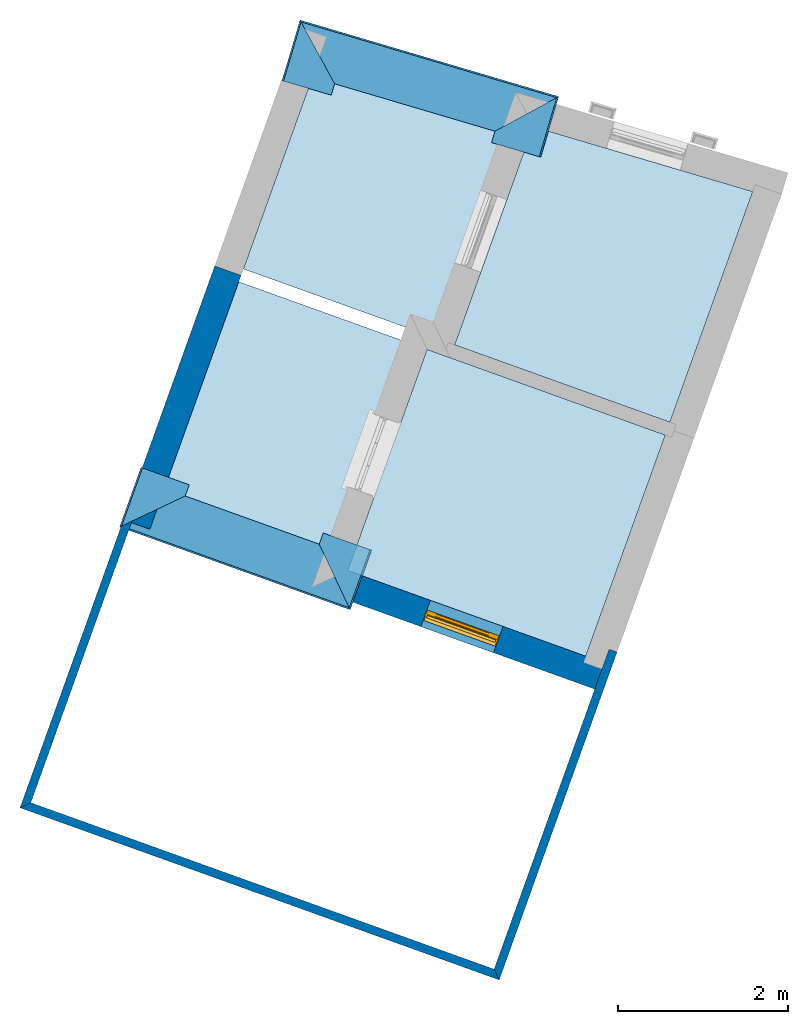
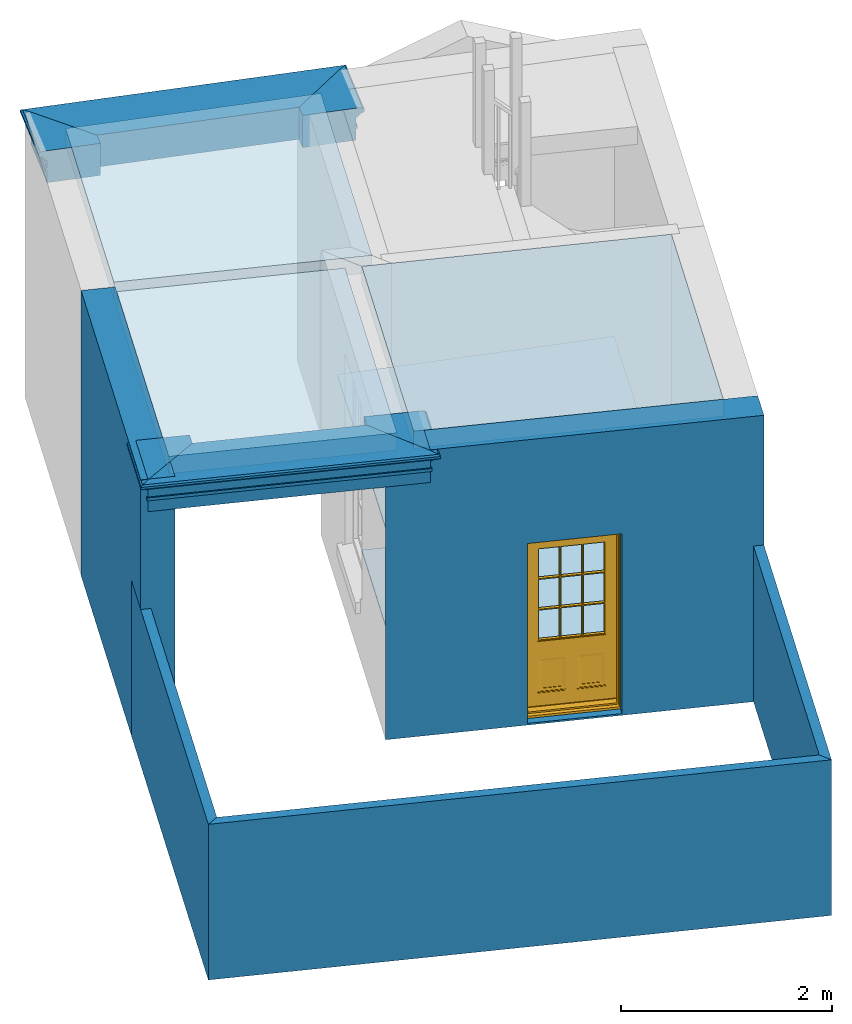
# One storey, part 1 of 4: 6 beams, 5 slabs, 5 walls, 1 door, 1 opening.
"""IFC4 building model written with IfcOpenShell, lengths in metres."""

from ifc_helpers import new_model, si_unit, frame, origin, origin_with_axes, place, context, subcontext, project, spatial, polyline, outline, extrude, clip, halfspace, faceted_brep, source, transform, mapped, material, layer, layer_set, layer_usage, material_profile, profile_set, profile_usage, type_object, type_shapes, element, fill, save


model = new_model("IFC4")

# Units and contexts
model_context = context("Model", 3, world=origin_with_axes())
body_context = subcontext(model_context, "Body", "Model", "MODEL_VIEW")
ifc_project = project(units=[si_unit("PLANEANGLEUNIT", "RADIAN"), si_unit("MASSUNIT", "GRAM", prefix="KILO"), si_unit("FORCEUNIT", "NEWTON", prefix="KILO"), si_unit("LENGTHUNIT", "METRE"), si_unit("AREAUNIT", "SQUARE_METRE"), si_unit("VOLUMEUNIT", "CUBIC_METRE")], contexts=[model_context, model_context])

# Sites, building, storey
site_1_placement = place(None, origin_with_axes())
site_1 = spatial("IfcSite", under=ifc_project, at=site_1_placement, Name="Tamar")
site_2_placement = place(site_1_placement, origin_with_axes())
site_2 = spatial("IfcSite", under=site_1, at=site_2_placement, Name="Site plot-24", CompositionType="ELEMENT")
building_placement = place(None, origin_with_axes())
building = spatial("IfcBuilding", under=site_2, at=building_placement, Name="Building plot-24", CompositionType="ELEMENT")
storey_placement = place(None, frame((0.0, 0.0, 26.0), z_axis=(0.0, 0.0, 1.0), x_axis=(1.0, 0.0, 0.0)))
storey = spatial("IfcBuildingStorey", under=building, at=storey_placement, Name="plot-24 0", CompositionType="ELEMENT", Elevation=26.0)

# Beams
ifc_material_profile_1 = material_profile(None, outline(polyline([(-0.26, 0.0), (-0.26, -0.37), (0.26, -0.37), (0.26, -0.235), (0.275, -0.235), (0.275, -0.2), (0.26, -0.2), (0.26, -0.11), (0.275, -0.11), (0.278, -0.098), (0.284, -0.089), (0.293, -0.083), (0.305, -0.08), (0.305, -0.065), (0.315, -0.065), (0.326, -0.063), (0.336, -0.056), (0.343, -0.047), (0.345, -0.035), (0.343, -0.023), (0.336, -0.014), (0.326, -0.007), (0.315, -0.005), (0.26, 0.0), (-0.26, 0.0)])))
ifc_profile_set_1 = profile_set([ifc_material_profile_1])
ifc_profile_usage_1 = profile_usage(ifc_profile_set_1)
beam_type_1 = type_object("IfcBeamType", Name="external beam_0", PredefinedType="NOTDEFINED", material=ifc_profile_set_1)
beam_1_placement = place(storey_placement, frame((268.751756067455, 274.251322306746, 3.3), z_axis=(0.338164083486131, 0.941087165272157, 0.0), x_axis=(-0.941087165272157, 0.338164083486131, 0.0)))
element("IfcBeam", 1, at=beam_1_placement, inside=storey, type_object=beam_type_1, material=ifc_profile_usage_1, Name="external beam_0", context=body_context, shape_type="Clipping", body=[
    clip(clip(extrude(outline(polyline([(-0.26, 0.0), (-0.26, -0.37), (0.26, -0.37), (0.26, -0.235), (0.275, -0.235), (0.275, -0.2), (0.26, -0.2), (0.26, -0.11), (0.275, -0.11), (0.278, -0.098), (0.284, -0.089), (0.293, -0.083), (0.305, -0.08), (0.305, -0.065), (0.315, -0.065), (0.326, -0.063), (0.336, -0.056), (0.343, -0.047), (0.345, -0.035), (0.343, -0.023), (0.336, -0.014), (0.326, -0.007), (0.315, -0.005), (0.26, 0.0), (-0.26, 0.0)])), origin_with_axes(), (0.0, 0.0, 1.0), 2.4), halfspace(frame((0.0, 0.0, 1.4), z_axis=(-2.67065849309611e-14, 0.0, -1.0), x_axis=(0.0, 1.0, 0.0)), True)), halfspace(frame((0.0, 0.0, 1.0), z_axis=(-0.707106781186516, 0.0, -0.707106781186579), x_axis=(0.0, 1.0, 0.0)), False)),
])
ifc_profile_usage_2 = profile_usage(ifc_profile_set_1)
beam_2_placement = place(storey_placement, frame((272.098928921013, 274.111172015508, 3.3), z_axis=(-0.941087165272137, 0.338164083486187, 0.0), x_axis=(-0.338164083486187, -0.941087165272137, 0.0)))
element("IfcBeam", 2, at=beam_2_placement, inside=storey, type_object=beam_type_1, material=ifc_profile_usage_2, Name="external beam_0", context=body_context, shape_type="Clipping", body=[
    clip(clip(extrude(outline(polyline([(-0.26, 0.0), (-0.26, -0.37), (0.26, -0.37), (0.26, -0.235), (0.275, -0.235), (0.275, -0.2), (0.26, -0.2), (0.26, -0.11), (0.275, -0.11), (0.278, -0.098), (0.284, -0.089), (0.293, -0.083), (0.305, -0.08), (0.305, -0.065), (0.315, -0.065), (0.326, -0.063), (0.336, -0.056), (0.343, -0.047), (0.345, -0.035), (0.343, -0.023), (0.336, -0.014), (0.326, -0.007), (0.315, -0.005), (0.26, 0.0), (-0.26, 0.0)])), origin_with_axes(), (0.0, 0.0, 1.0), 4.19737520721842), halfspace(frame((0.0, 0.0, 3.19737520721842), z_axis=(0.707106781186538, 0.0, -0.707106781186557), x_axis=(0.0, 1.0, 0.0)), True)), halfspace(frame((0.0, 0.0, 1.0), z_axis=(-0.70710678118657, 0.0, -0.707106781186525), x_axis=(0.0, 1.0, 0.0)), False)),
])
ifc_profile_usage_3 = profile_usage(ifc_profile_set_1)
beam_3_placement = place(storey_placement, frame((271.631271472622, 275.766858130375, 3.3), z_axis=(-0.338164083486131, -0.941087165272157, 0.0), x_axis=(0.941087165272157, -0.338164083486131, 0.0)))
element("IfcBeam", 3, at=beam_3_placement, inside=storey, type_object=beam_type_1, material=ifc_profile_usage_3, Name="external beam_0", context=body_context, shape_type="Clipping", body=[
    clip(clip(extrude(outline(polyline([(-0.26, 0.0), (-0.26, -0.37), (0.26, -0.37), (0.26, -0.235), (0.275, -0.235), (0.275, -0.2), (0.26, -0.2), (0.26, -0.11), (0.275, -0.11), (0.278, -0.098), (0.284, -0.089), (0.293, -0.083), (0.305, -0.08), (0.305, -0.065), (0.315, -0.065), (0.326, -0.063), (0.336, -0.056), (0.343, -0.047), (0.345, -0.035), (0.343, -0.023), (0.336, -0.014), (0.326, -0.007), (0.315, -0.005), (0.26, 0.0), (-0.26, 0.0)])), origin_with_axes(), (0.0, 0.0, 1.0), 2.4), halfspace(frame((0.0, 0.0, 1.4), z_axis=(0.707106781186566, 0.0, -0.707106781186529), x_axis=(0.0, 1.0, 0.0)), True)), halfspace(frame((0.0, 0.0, 1.0), z_axis=(-2.67065849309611e-14, 0.0, -1.0), x_axis=(0.0, 1.0, 0.0)), False)),
])
ifc_material_profile_2 = material_profile(None, outline(polyline([(-0.26, 0.0), (-0.26, -0.37), (0.26, -0.37), (0.26, -0.235), (0.275, -0.235), (0.275, -0.2), (0.26, -0.2), (0.26, -0.11), (0.275, -0.11), (0.278, -0.098), (0.284, -0.089), (0.293, -0.083), (0.305, -0.08), (0.305, -0.065), (0.315, -0.065), (0.326, -0.063), (0.336, -0.056), (0.343, -0.047), (0.345, -0.035), (0.343, -0.023), (0.336, -0.014), (0.326, -0.007), (0.315, -0.005), (0.26, 0.0), (-0.26, 0.0)])))
ifc_profile_set_2 = profile_set([ifc_material_profile_2])
ifc_profile_usage_4 = profile_usage(ifc_profile_set_2)
beam_type_2 = type_object("IfcBeamType", Name="external beam_0", PredefinedType="NOTDEFINED", material=ifc_profile_set_2)
beam_4_placement = place(storey_placement, frame((273.678064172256, 280.781707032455, 3.3), z_axis=(-0.283745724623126, -0.958899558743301, 0.0), x_axis=(0.958899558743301, -0.283745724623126, 0.0)))
element("IfcBeam", 4, at=beam_4_placement, inside=storey, type_object=beam_type_2, material=ifc_profile_usage_4, Name="external beam_0", context=body_context, shape_type="Clipping", body=[
    clip(clip(extrude(outline(polyline([(-0.26, 0.0), (-0.26, -0.37), (0.26, -0.37), (0.26, -0.235), (0.275, -0.235), (0.275, -0.2), (0.26, -0.2), (0.26, -0.11), (0.275, -0.11), (0.278, -0.098), (0.284, -0.089), (0.293, -0.083), (0.305, -0.08), (0.305, -0.065), (0.315, -0.065), (0.326, -0.063), (0.336, -0.056), (0.343, -0.047), (0.345, -0.035), (0.343, -0.023), (0.336, -0.014), (0.326, -0.007), (0.315, -0.005), (0.26, 0.0), (-0.26, 0.0)])), origin_with_axes(), (0.0, 0.0, 1.0), 2.39999999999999), halfspace(frame((0.0, 0.0, 1.39999999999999), z_axis=(1.12630425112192e-14, 0.0, -1.0), x_axis=(0.0, 1.0, 0.0)), True)), halfspace(frame((0.0, 0.0, 1.0), z_axis=(-0.707106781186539, 0.0, -0.707106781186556), x_axis=(0.0, 1.0, 0.0)), False)),
])
ifc_profile_usage_5 = profile_usage(ifc_profile_set_2)
beam_5_placement = place(storey_placement, frame((270.048534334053, 280.812850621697, 3.3), z_axis=(0.95889955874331, -0.283745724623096, 0.0), x_axis=(0.283745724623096, 0.95889955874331, 0.0)))
element("IfcBeam", 5, at=beam_5_placement, inside=storey, type_object=beam_type_2, material=ifc_profile_usage_5, Name="external beam_0", context=body_context, shape_type="Clipping", body=[
    clip(clip(extrude(outline(polyline([(-0.26, 0.0), (-0.26, -0.37), (0.26, -0.37), (0.26, -0.235), (0.275, -0.235), (0.275, -0.2), (0.26, -0.2), (0.26, -0.11), (0.275, -0.11), (0.278, -0.098), (0.284, -0.089), (0.293, -0.083), (0.305, -0.08), (0.305, -0.065), (0.315, -0.065), (0.326, -0.063), (0.336, -0.056), (0.343, -0.047), (0.345, -0.035), (0.343, -0.023), (0.336, -0.014), (0.326, -0.007), (0.315, -0.005), (0.26, 0.0), (-0.26, 0.0)])), origin_with_axes(), (0.0, 0.0, 1.0), 4.48919142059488), halfspace(frame((0.0, 0.0, 3.48919142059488), z_axis=(0.707106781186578, 0.0, -0.707106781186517), x_axis=(0.0, 1.0, 0.0)), True)), halfspace(frame((0.0, 0.0, 1.0), z_axis=(-0.707106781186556, 0.0, -0.707106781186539), x_axis=(0.0, 1.0, 0.0)), False)),
])
ifc_profile_usage_6 = profile_usage(ifc_profile_set_2)
beam_6_placement = place(storey_placement, frame((270.610189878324, 279.186645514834, 3.3), z_axis=(0.283745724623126, 0.958899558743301, 0.0), x_axis=(-0.958899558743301, 0.283745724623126, 0.0)))
element("IfcBeam", 6, at=beam_6_placement, inside=storey, type_object=beam_type_2, material=ifc_profile_usage_6, Name="external beam_0", context=body_context, shape_type="Clipping", body=[
    clip(clip(extrude(outline(polyline([(-0.26, 0.0), (-0.26, -0.37), (0.26, -0.37), (0.26, -0.235), (0.275, -0.235), (0.275, -0.2), (0.26, -0.2), (0.26, -0.11), (0.275, -0.11), (0.278, -0.098), (0.284, -0.089), (0.293, -0.083), (0.305, -0.08), (0.305, -0.065), (0.315, -0.065), (0.326, -0.063), (0.336, -0.056), (0.343, -0.047), (0.345, -0.035), (0.343, -0.023), (0.336, -0.014), (0.326, -0.007), (0.315, -0.005), (0.26, 0.0), (-0.26, 0.0)])), origin_with_axes(), (0.0, 0.0, 1.0), 2.39999999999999), halfspace(frame((0.0, 0.0, 1.39999999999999), z_axis=(0.707106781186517, 0.0, -0.707106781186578), x_axis=(0.0, 1.0, 0.0)), True)), halfspace(frame((0.0, 0.0, 1.0), z_axis=(1.14850871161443e-14, 0.0, -1.0), x_axis=(0.0, 1.0, 0.0)), False)),
])

# Slabs
slab_1_placement = place(storey_placement, frame((269.11697327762, 275.26769644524, 3.1)))
element("IfcSlab", 7, at=slab_1_placement, inside=storey, Name="My Slab", ObjectType="Slab", PredefinedType="FLOOR", context=body_context, shape_type="SweptSolid", body=[
    extrude(outline(polyline([(0.0, 0.0), (2.06792160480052, -0.743073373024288), (3.00432198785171, 1.8628638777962), (0.93640038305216, 2.60593725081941), (0.0, 0.0)])), origin_with_axes(), (0.0, 0.0, 1.0), 0.2),
])
slab_2_placement = place(storey_placement, frame((271.335468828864, 274.470516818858, 3.1)))
element("IfcSlab", 8, at=slab_2_placement, inside=storey, Name="My Slab", ObjectType="Slab", PredefinedType="FLOOR", context=body_context, shape_type="SweptSolid", body=[
    extrude(outline(polyline([(0.0, 0.0), (2.80690991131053, -1.00861657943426), (3.74331029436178, 1.59732067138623), (0.93640038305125, 2.60593725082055), (0.0, 0.0)])), origin_with_axes(), (0.0, 0.0, 1.0), 0.2),
])
slab_3_placement = place(storey_placement, frame((271.335468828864, 274.470516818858, 0.0)))
element("IfcSlab", 9, at=slab_3_placement, inside=storey, Name="My Slab", ObjectType="Slab", PredefinedType="FLOOR", context=body_context, shape_type="SweptSolid", body=[
    extrude(outline(polyline([(0.0, 0.0), (2.80690991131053, -1.00861657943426), (3.74331029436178, 1.59732067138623), (0.93640038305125, 2.60593725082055), (0.0, 0.0)])), origin_with_axes(), (0.0, 0.0, 1.0), 0.02),
])
slab_4_placement = place(storey_placement, frame((272.596512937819, 277.129814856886, 0.0)))
element("IfcSlab", 10, at=slab_4_placement, inside=storey, Name="My Slab", ObjectType="Slab", PredefinedType="FLOOR", context=body_context, shape_type="SweptSolid", body=[
    extrude(outline(polyline([(0.0, 0.0), (2.53637243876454, -0.911403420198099), (3.51288097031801, 1.80615202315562), (0.924257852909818, 2.57214543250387), (0.0, 0.0)])), origin_with_axes(), (0.0, 0.0, 1.0), 0.02),
])
slab_5_placement = place(storey_placement, frame((272.445938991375, 277.183921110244, 3.1)))
element("IfcSlab", 11, at=slab_5_placement, inside=storey, Name="My Slab", ObjectType="Slab", PredefinedType="FLOOR", context=body_context, shape_type="SweptSolid", body=[
    extrude(outline(polyline([(0.0, 0.0), (0.921155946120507, 2.56351304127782), (-1.46547668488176, 3.26973591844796), (-2.33845907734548, 0.840286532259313), (0.0, 0.0)])), origin_with_axes(), (0.0, 0.0, 1.0), 0.2),
])

# Wall, opening, door
ifc_material_1 = material(Name="Masonry")
ifc_layer_1 = layer(ifc_material_1, 0.33, ventilated=False)
ifc_layer_set_1 = layer_set([ifc_layer_1], Name="exterior_0.08_0.25")
ifc_layer_usage_1 = layer_usage(ifc_layer_set_1, "AXIS2", "POSITIVE", -0.25)
wall_type_1 = type_object("IfcWallType", Name="exterior_0.08_0.25", PredefinedType="SOLIDWALL", material=ifc_layer_set_1)
wall_1_placement = place(storey_placement, frame((271.233128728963, 274.422282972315, 0.0), z_axis=(0.0, 0.0, 1.0), x_axis=(0.941087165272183, -0.338164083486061, 0.0)))
wall_1 = element("IfcWall", 12, at=wall_1_placement, inside=storey, type_object=wall_type_1, material=ifc_layer_usage_1, Name="exterior", context=body_context, shape_type="SweptSolid", body=[
    extrude(outline(polyline([(0.0799999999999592, 0.080000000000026), (-0.249999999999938, -0.250000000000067), (3.39262479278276, -0.25000000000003), (3.39262479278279, 0.0799999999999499), (0.0799999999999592, 0.080000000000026)])), origin_with_axes(), (0.0, 0.0, 1.0), 3.3),
])
opening_placement = place(wall_1_placement, frame((1.11631239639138, 0.0, 0.0199999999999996)))
opening = element("IfcOpeningElement", 13, at=opening_placement, cuts=wall_1, Name="My Opening", ObjectType="Opening", context=body_context, shape_type="SweptSolid", body=[
    extrude(outline(polyline([(0.0, -0.270000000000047), (0.910000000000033, -0.269999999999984), (0.910000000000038, 1.10000000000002), (4.88498130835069e-15, 1.09999999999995), (0.0, -0.270000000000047)])), origin_with_axes(), (0.0, 0.0, 1.0), 2.08),
])
door_type = type_object("IfcDoorType", Name="door_panelled", OperationType="SINGLE_SWING_LEFT", PredefinedType="NOTDEFINED")
shared_shape = source(origin(), body_context, "Body", "Brep", [
    faceted_brep([(0.545, 0.195, 0.265), (0.745, 0.195, 0.265), (0.745, 0.2, 0.265), (0.545, 0.2, 0.265), (0.745, 0.2, 0.58), (0.545, 0.2, 0.58), (0.545, 0.195, 0.58), (0.515, 0.19, 0.235), (0.775, 0.19, 0.235), (0.745, 0.195, 0.58), (0.515, 0.19, 0.61), (0.515, 0.185, 0.235), (0.775, 0.185, 0.235), (0.775, 0.19, 0.61), (0.515, 0.185, 0.61), (0.785, 0.185, 0.225), (0.505, 0.185, 0.225), (0.775, 0.185, 0.61), (0.505, 0.185, 0.62), (0.785, 0.185, 0.62), (0.505, 0.18, 0.225), (0.785, 0.18, 0.225), (0.505, 0.18, 0.62), (0.785, 0.18, 0.62), (0.883, 0.18, 0.075), (0.898, 0.18, 0.075), (0.405, 0.18, 0.62), (0.405, 0.18, 0.225), (0.027, 0.18, 0.075), (0.785, 0.18, 0.82), (0.125, 0.18, 0.82), (0.405, 0.185, 0.62), (0.405, 0.185, 0.225), (0.898, 0.18, 2.068), (0.027, 0.17, 0.075), (0.883, 0.17, 0.075), (0.125, 0.18, 0.225), (0.012, 0.18, 0.075), (0.785, 0.19, 0.82), (0.125, 0.19, 0.82), (0.125, 0.18, 0.62), (0.125, 0.185, 0.62), (0.395, 0.185, 0.61), (0.395, 0.185, 0.235), (0.125, 0.185, 0.225), (0.785, 0.18, 1.895), (0.027, 0.14, 0.045), (0.883, 0.14, 0.045), (0.558333, 0.19, 0.83), (0.351667, 0.19, 0.83), (0.125, 0.18, 1.895), (0.125, 0.19, 1.895), (0.785, 0.19, 1.895), (0.012, 0.18, 2.068), (0.135, 0.185, 0.61), (0.395, 0.19, 0.61), (0.395, 0.19, 0.235), (0.135, 0.185, 0.235), (0.027, 0.14, 0.027), (0.883, 0.14, 0.027), (0.568333, 0.19, 0.83), (0.558333, 0.22, 0.83), (0.351667, 0.22, 0.83), (0.341667, 0.19, 0.83), (0.135, 0.19, 1.185), (0.135, 0.19, 1.53), (0.775, 0.19, 1.53), (0.775, 0.19, 1.185), (0.135, 0.19, 0.61), (0.365, 0.195, 0.58), (0.365, 0.195, 0.265), (0.135, 0.19, 0.235), (0.568333, 0.19, 1.175), (0.558333, 0.19, 1.175), (0.775, 0.19, 0.83), (0.558333, 0.22, 1.175), (0.785, 0.22, 0.82), (0.125, 0.22, 0.82), (0.351667, 0.22, 1.175), (0.351667, 0.19, 1.175), (0.341667, 0.19, 1.175), (0.135, 0.19, 0.83), (0.135, 0.19, 1.175), (0.135, 0.22, 1.185), (0.135, 0.22, 1.53), (0.135, 0.19, 1.54), (0.351667, 0.19, 1.885), (0.558333, 0.19, 1.885), (0.775, 0.22, 1.53), (0.775, 0.22, 1.185), (0.775, 0.19, 1.175), (0.775, 0.19, 1.54), (0.165, 0.195, 0.58), (0.365, 0.2, 0.58), (0.365, 0.2, 0.265), (0.165, 0.195, 0.265), (0.568333, 0.22, 0.83), (0.568333, 0.22, 1.175), (0.568333, 0.19, 1.185), (0.558333, 0.19, 1.185), (0.775, 0.22, 0.83), (0.785, 0.23, 0.82), (0.125, 0.23, 0.82), (0.341667, 0.22, 0.83), (0.341667, 0.22, 1.175), (0.351667, 0.19, 1.185), (0.341667, 0.19, 1.185), (0.135, 0.22, 0.83), (0.341667, 0.22, 1.185), (0.125, 0.22, 1.895), (0.341667, 0.22, 1.53), (0.341667, 0.19, 1.53), (0.135, 0.19, 1.885), (0.341667, 0.19, 1.54), (0.341667, 0.19, 1.885), (0.558333, 0.22, 1.885), (0.351667, 0.22, 1.885), (0.568333, 0.19, 1.885), (0.785, 0.22, 1.895), (0.568333, 0.22, 1.185), (0.568333, 0.19, 1.53), (0.568333, 0.22, 1.53), (0.568333, 0.19, 1.54), (0.775, 0.19, 1.885), (0.165, 0.2, 0.58), (0.165, 0.2, 0.265), (0.775, 0.22, 1.175), (0.558333, 0.19, 1.53), (0.351667, 0.22, 1.185), (0.558333, 0.22, 1.185), (0.505, 0.23, 0.62), (0.405, 0.23, 0.62), (0.125, 0.23, 1.895), (0.785, 0.23, 1.895), (0.351667, 0.19, 1.53), (0.135, 0.22, 1.175), (0.135, 0.22, 1.54), (0.341667, 0.22, 1.54), (0.135, 0.22, 1.885), (0.351667, 0.19, 1.54), (0.558333, 0.22, 1.54), (0.558333, 0.19, 1.54), (0.351667, 0.22, 1.54), (0.775, 0.22, 1.54), (0.568333, 0.22, 1.54), (0.775, 0.22, 1.885), (0.558333, 0.22, 1.53), (0.405, 0.23, 0.225), (0.505, 0.23, 0.225), (0.125, 0.23, 0.62), (0.785, 0.23, 0.62), (0.012, 0.23, 2.068), (0.898, 0.23, 2.068), (0.351667, 0.22, 1.53), (0.341667, 0.22, 1.885), (0.568333, 0.22, 1.885), (0.405, 0.225, 0.225), (0.405, 0.225, 0.62), (0.505, 0.225, 0.62), (0.505, 0.225, 0.225), (0.898, 0.23, 0.027), (0.012, 0.23, 0.027), (0.125, 0.225, 0.62), (0.785, 0.225, 0.62), (0.395, 0.225, 0.235), (0.395, 0.225, 0.61), (0.125, 0.23, 0.225), (0.125, 0.225, 0.225), (0.515, 0.225, 0.61), (0.515, 0.225, 0.235), (0.785, 0.23, 0.225), (0.785, 0.225, 0.225), (0.135, 0.225, 0.61), (0.775, 0.225, 0.61), (0.135, 0.225, 0.235), (0.395, 0.22, 0.235), (0.395, 0.22, 0.61), (0.515, 0.22, 0.61), (0.515, 0.22, 0.235), (0.775, 0.225, 0.235), (0.135, 0.22, 0.61), (0.775, 0.22, 0.61), (0.135, 0.22, 0.235), (0.365, 0.215, 0.265), (0.365, 0.215, 0.58), (0.545, 0.215, 0.58), (0.545, 0.215, 0.265), (0.775, 0.22, 0.235), (0.165, 0.215, 0.58), (0.745, 0.215, 0.58), (0.165, 0.215, 0.265), (0.365, 0.21, 0.58), (0.365, 0.21, 0.265), (0.545, 0.21, 0.58), (0.545, 0.21, 0.265), (0.745, 0.215, 0.265), (0.165, 0.21, 0.58), (0.745, 0.21, 0.58), (0.165, 0.21, 0.265), (0.745, 0.21, 0.265), (0.885, 0.178, 0.025), (0.025, 0.178, 0.025), (0.025, 0.15, 0.025), (0.885, 0.15, 0.025), (0.9, 0.23, 0.025), (0.01, 0.23, 0.025), (0.9, 0.178, 0.025), (0.91, 0.23, 0.0), (0.0, 0.23, 0.0), (0.01, 0.178, 0.025), (0.9, 0.178, 2.07), (0.9, 0.23, 2.07), (0.885, 0.178, 2.055), (0.91, 0.23, 2.08), (0.01, 0.23, 2.07), (0.0, 0.23, 2.08), (0.01, 0.178, 2.07), (0.025, 0.178, 2.055), (0.0, 0.1, 2.08), (0.91, 0.1, 2.08), (0.01, 0.1, 2.07), (0.9, 0.1, 2.07), (0.01, 0.15, 2.07), (0.9, 0.15, 2.07), (0.0, 0.1, 0.0), (0.91, 0.1, 0.0), (0.01, 0.1, 0.025), (0.9, 0.1, 0.025), (0.01, 0.15, 0.025), (0.025, 0.15, 2.055), (0.9, 0.15, 0.025), (0.885, 0.15, 2.055), (0.898, 0.18, 0.027), (0.012, 0.18, 0.027), (0.883, 0.18, 0.027), (0.027, 0.18, 0.027)], [[[0, 1, 2, 3]], [[2, 4, 5, 3]], [[0, 3, 5, 6]], [[1, 0, 7, 8]], [[9, 4, 2, 1]], [[9, 6, 5, 4]], [[0, 6, 10, 7]], [[8, 7, 11, 12]], [[8, 13, 9, 1]], [[13, 10, 6, 9]], [[7, 10, 14, 11]], [[15, 12, 11, 16]], [[12, 17, 13, 8]], [[17, 14, 10, 13]], [[18, 16, 11, 14]], [[15, 19, 17, 12]], [[15, 16, 20, 21]], [[14, 17, 19, 18]], [[16, 18, 22, 20]], [[21, 23, 19, 15]], [[24, 25, 21, 20]], [[23, 22, 18, 19]], [[20, 22, 26, 27]], [[23, 21, 25]], [[28, 24, 20, 27]], [[22, 23, 29]], [[29, 30, 26, 22]], [[27, 26, 31, 32]], [[23, 25, 33, 29]], [[34, 35, 24, 28]], [[28, 27, 36, 37]], [[38, 39, 30, 29]], [[26, 30, 40]], [[26, 40, 41, 31]], [[42, 43, 32, 31]], [[32, 44, 36, 27]], [[33, 45, 29]], [[46, 47, 35, 34]], [[36, 40, 37]], [[39, 38, 48, 49]], [[50, 30, 39, 51]], [[29, 45, 52, 38]], [[53, 37, 40, 30]], [[44, 41, 40, 36]], [[31, 41, 54, 42]], [[43, 42, 55, 56]], [[57, 44, 32, 43]], [[50, 45, 33, 53]], [[47, 46, 58, 59]], [[60, 48, 38]], [[49, 48, 61, 62]], [[49, 63, 39]], [[50, 53, 30]], [[51, 39, 64, 65]], [[45, 50, 51, 52]], [[66, 67, 38, 52]], [[57, 54, 41, 44]], [[42, 54, 68, 55]], [[56, 55, 69, 70]], [[56, 71, 57, 43]], [[60, 72, 73, 48]], [[60, 38, 74]], [[48, 73, 75, 61]], [[76, 77, 62, 61]], [[62, 78, 79, 49]], [[49, 79, 80, 63]], [[63, 81, 39]], [[82, 64, 39]], [[65, 64, 83, 84]], [[85, 51, 65]], [[52, 51, 86, 87]], [[88, 89, 67, 66]], [[90, 38, 67]], [[91, 66, 52]], [[71, 68, 54, 57]], [[55, 68, 92, 69]], [[69, 93, 94, 70]], [[70, 95, 71, 56]], [[96, 97, 72, 60]], [[73, 72, 98, 99]], [[74, 38, 90]], [[100, 96, 60, 74]], [[75, 73, 79, 78]], [[61, 75, 97, 96]], [[101, 102, 77, 76]], [[77, 103, 62]], [[96, 76, 61]], [[103, 104, 78, 62]], [[80, 79, 105, 106]], [[63, 80, 104, 103]], [[81, 63, 103, 107]], [[81, 82, 39]], [[106, 64, 82, 80]], [[106, 108, 83, 64]], [[84, 83, 77, 109]], [[110, 111, 65, 84]], [[112, 51, 85]], [[113, 85, 65, 111]], [[114, 86, 51]], [[115, 87, 86, 116]], [[117, 52, 87]], [[118, 76, 89, 88]], [[119, 98, 67, 89]], [[120, 121, 88, 66]], [[67, 98, 72, 90]], [[91, 122, 120, 66]], [[91, 52, 123]], [[95, 92, 68, 71]], [[69, 92, 124, 93]], [[94, 93, 124, 125]], [[94, 125, 95, 70]], [[72, 97, 126, 90]], [[127, 99, 98, 120]], [[99, 105, 79, 73]], [[74, 90, 126, 100]], [[96, 100, 76]], [[128, 129, 75, 78]], [[97, 75, 129, 119]], [[130, 131, 102, 101]], [[109, 77, 102, 132]], [[133, 101, 76, 118]], [[77, 107, 103]], [[78, 104, 108, 128]], [[111, 106, 105, 134]], [[104, 80, 82, 135]], [[107, 135, 82, 81]], [[110, 108, 106, 111]], [[104, 135, 83, 108]], [[83, 135, 77]], [[136, 84, 109]], [[110, 84, 136, 137]], [[114, 51, 112]], [[85, 136, 138, 112]], [[113, 137, 136, 85]], [[111, 134, 139, 113]], [[86, 114, 113, 139]], [[140, 141, 87, 115]], [[139, 142, 116, 86]], [[109, 118, 115, 116]], [[117, 123, 52]], [[117, 87, 141, 122]], [[126, 89, 76]], [[143, 118, 88]], [[120, 98, 119, 121]], [[119, 89, 126, 97]], [[144, 143, 88, 121]], [[144, 122, 91, 143]], [[127, 120, 122, 141]], [[143, 91, 123, 145]], [[124, 92, 95, 125]], [[146, 129, 99, 127]], [[99, 129, 128, 105]], [[100, 126, 76]], [[121, 119, 129, 146]], [[147, 131, 130, 148]], [[131, 149, 102]], [[130, 101, 150]], [[102, 151, 132]], [[118, 109, 132, 133]], [[101, 133, 152]], [[107, 77, 135]], [[153, 128, 108, 110]], [[134, 105, 128, 153]], [[109, 138, 136]], [[153, 110, 137, 142]], [[154, 114, 112, 138]], [[137, 113, 114, 154]], [[141, 139, 134, 127]], [[141, 140, 142, 139]], [[144, 140, 115, 155]], [[142, 137, 154, 116]], [[155, 115, 118]], [[116, 154, 109]], [[117, 155, 145, 123]], [[122, 144, 155, 117]], [[143, 145, 118]], [[121, 146, 140, 144]], [[146, 127, 134, 153]], [[156, 157, 131, 147]], [[148, 130, 158, 159]], [[148, 160, 161, 147]], [[157, 162, 149, 131]], [[161, 151, 102, 149]], [[101, 152, 160, 150]], [[163, 158, 130, 150]], [[151, 152, 133, 132]], [[154, 138, 109]], [[142, 140, 146, 153]], [[145, 155, 118]], [[157, 156, 164, 165]], [[147, 166, 167, 156]], [[168, 169, 159, 158]], [[170, 148, 159, 171]], [[148, 170, 160]], [[166, 147, 161]], [[172, 162, 157, 165]], [[166, 149, 162, 167]], [[166, 161, 149]], [[150, 160, 170]], [[163, 173, 168, 158]], [[171, 163, 150, 170]], [[174, 164, 156, 167]], [[175, 176, 165, 164]], [[169, 168, 177, 178]], [[171, 159, 169, 179]], [[167, 162, 172, 174]], [[176, 180, 172, 165]], [[179, 173, 163, 171]], [[181, 177, 168, 173]], [[164, 174, 182, 175]], [[183, 184, 176, 175]], [[178, 177, 185, 186]], [[179, 169, 178, 187]], [[174, 172, 180, 182]], [[184, 188, 180, 176]], [[187, 181, 173, 179]], [[189, 185, 177, 181]], [[175, 182, 190, 183]], [[191, 184, 183, 192]], [[185, 193, 194, 186]], [[187, 178, 186, 195]], [[182, 180, 188, 190]], [[191, 196, 188, 184]], [[195, 189, 181, 187]], [[197, 193, 185, 189]], [[183, 190, 198, 192]], [[198, 196, 191, 192]], [[194, 193, 197, 199]], [[195, 186, 194, 199]], [[188, 196, 198, 190]], [[197, 189, 195, 199]], [[200, 201, 202, 203]], [[201, 200, 204, 205]], [[206, 204, 200]], [[204, 207, 208, 205]], [[209, 201, 205]], [[210, 211, 204, 206]], [[206, 200, 212, 210]], [[211, 213, 207, 204]], [[214, 205, 208, 215]], [[216, 217, 201, 209]], [[205, 214, 216, 209]], [[216, 214, 211, 210]], [[210, 212, 217, 216]], [[214, 215, 213, 211]], [[218, 219, 213, 215]], [[219, 218, 220, 221]], [[221, 220, 222, 223]], [[215, 208, 224, 218]], [[225, 224, 208, 207]], [[224, 226, 220, 218]], [[224, 225, 227, 226]], [[219, 225, 207, 213]], [[228, 222, 220, 226]], [[219, 221, 227, 225]], [[226, 227, 203, 202]], [[202, 229, 222, 228]], [[228, 226, 202]], [[227, 221, 223, 230]], [[230, 203, 227]], [[217, 229, 202, 201]], [[231, 223, 222, 229]], [[230, 223, 231, 203]], [[231, 229, 217, 212]], [[212, 200, 203, 231]], [[33, 152, 151, 53]], [[25, 160, 152, 33]], [[161, 37, 53, 151]], [[232, 160, 25]], [[161, 233, 37]], [[160, 232, 234]], [[24, 234, 232, 25]], [[233, 161, 235]], [[37, 233, 235, 28]], [[161, 160, 234, 235]], [[35, 47, 234, 24]], [[28, 235, 46, 34]], [[58, 235, 234, 59]], [[59, 234, 47]], [[58, 46, 235]]]),
])
type_shapes(door_type, [shared_shape])
door_placement = place(storey_placement, frame((272.1923716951, 273.790692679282, 0.0199999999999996), z_axis=(0.0, 0.0, 1.0), x_axis=(0.856389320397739, -0.307729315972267, 0.0)))
door = element("IfcDoor", 14, at=door_placement, inside=storey, type_object=door_type, Name="bedroom sahn door", OverallHeight=2.08, OverallWidth=0.91, context=body_context, shape_type="MappedRepresentation", body=[
    mapped(shared_shape, transform((0.0, 0.0, 0.0), scale=1.0)),
])
fill(opening, door)

# Walls
ifc_material_2 = material(Name="Masonry")
ifc_layer_2 = layer(ifc_material_2, 0.33, ventilated=False)
ifc_layer_set_2 = layer_set([ifc_layer_2], Name="party_0.08_0.25")
ifc_layer_usage_2 = layer_usage(ifc_layer_set_2, "AXIS2", "POSITIVE", -0.25)
wall_type_2 = type_object("IfcWallType", Name="party_0.08_0.25", PredefinedType="SOLIDWALL", material=ifc_layer_set_2)
wall_2_placement = place(storey_placement, frame((270.005139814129, 277.97597379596, 0.0), z_axis=(0.0, 0.0, 1.0), x_axis=(-0.338164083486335, -0.941087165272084, 0.0)))
element("IfcWall", 15, at=wall_2_placement, inside=storey, type_object=wall_type_2, material=ifc_layer_usage_2, Name="party", context=body_context, shape_type="SweptSolid", body=[
    extrude(outline(polyline([(-2.03362180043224e-14, 0.0799999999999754), (1.00823558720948e-13, -0.249999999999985), (3.17907107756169, -0.250000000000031), (3.17907107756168, 0.0799999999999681), (-2.03362180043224e-14, 0.0799999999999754)])), origin_with_axes(), (0.0, 0.0, 1.0), 3.3),
])
ifc_material_3 = material(Name="Masonry")
ifc_layer_3 = layer(ifc_material_3, 0.1, ventilated=False)
ifc_layer_set_3 = layer_set([ifc_layer_3], Name="fence_-0.15_0.25")
ifc_layer_usage_3 = layer_usage(ifc_layer_set_3, "AXIS2", "POSITIVE", -0.25)
wall_type_3 = type_object("IfcWallType", Name="fence_-0.15_0.25", PredefinedType="SOLIDWALL", material=ifc_layer_set_3)
wall_3_placement = place(storey_placement, frame((269.014633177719, 275.219462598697, 0.0), z_axis=(0.0, 0.0, 1.0), x_axis=(-0.338164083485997, -0.941087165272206, 0.0)))
element("IfcWall", 16, at=wall_3_placement, inside=storey, type_object=wall_type_3, material=ifc_layer_usage_3, Name="fence", context=body_context, shape_type="SweptSolid", body=[
    extrude(outline(polyline([(-0.25, -0.15000000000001), (-0.249999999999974, -0.249999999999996), (3.8558014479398, -0.249999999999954), (3.75580144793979, -0.149999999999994), (-0.25, -0.15000000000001)])), origin_with_axes(), (0.0, 0.0, 1.0), 1.8),
])
wall_4_placement = place(storey_placement, frame((267.795280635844, 271.826089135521, 0.0), z_axis=(0.0, 0.0, 1.0), x_axis=(0.941087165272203, -0.338164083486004, 0.0)))
element("IfcWall", 17, at=wall_4_placement, inside=storey, type_object=wall_type_3, material=ifc_layer_usage_3, Name="fence", context=body_context, shape_type="SweptSolid", body=[
    extrude(outline(polyline([(-0.149999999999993, -0.150000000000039), (-0.249999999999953, -0.250000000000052), (5.74999999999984, -0.249999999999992), (5.64999999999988, -0.150000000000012), (-0.149999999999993, -0.150000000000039)])), origin_with_axes(), (0.0, 0.0, 1.0), 1.8),
])
wall_5_placement = place(storey_placement, frame((272.971260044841, 269.966186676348, 0.0), z_axis=(0.0, 0.0, 1.0), x_axis=(0.338164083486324, 0.941087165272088, 0.0)))
element("IfcWall", 18, at=wall_5_placement, inside=storey, type_object=wall_type_3, material=ifc_layer_usage_3, Name="fence", context=body_context, shape_type="SweptSolid", body=[
    extrude(outline(polyline([(-0.149999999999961, -0.150000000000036), (-0.249999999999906, -0.25000000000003), (3.85580144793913, -0.250000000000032), (3.85580144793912, -0.150000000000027), (-0.149999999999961, -0.150000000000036)])), origin_with_axes(), (0.0, 0.0, 1.0), 1.8),
])

save(model, "model.ifc")
